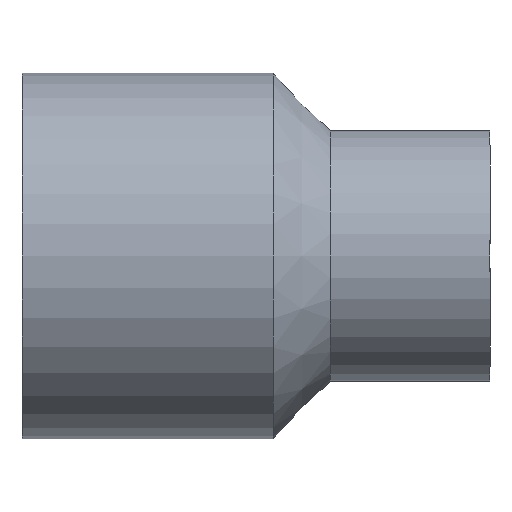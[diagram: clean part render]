
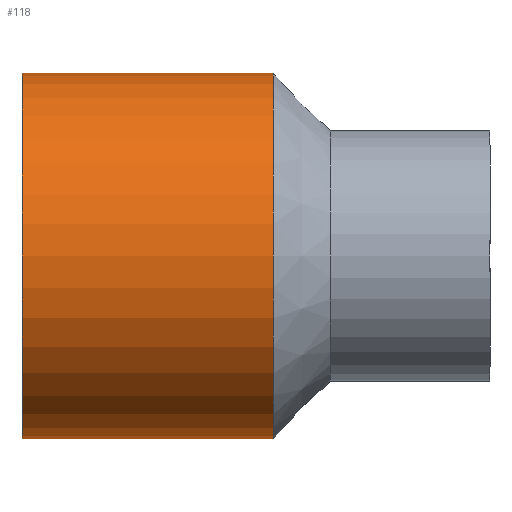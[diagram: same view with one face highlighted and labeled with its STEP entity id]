
A CAD part, front view. The second image highlights one B-rep face of the part: STEP entity #118.
In plain terms, the highlighted cylindrical face has radius 16 mm (diameter 32 mm), a full revolution.
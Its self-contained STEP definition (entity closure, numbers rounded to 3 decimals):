
#18=CYLINDRICAL_SURFACE('',#134,16.);
#25=FACE_BOUND('',#49,.T.);
#35=FACE_OUTER_BOUND('',#48,.T.);
#48=EDGE_LOOP('',(#98));
#49=EDGE_LOOP('',(#99));
#65=CIRCLE('',#133,16.);
#66=CIRCLE('',#135,16.);
#75=VERTEX_POINT('',#199);
#76=VERTEX_POINT('',#202);
#85=EDGE_CURVE('',#75,#75,#65,.T.);
#86=EDGE_CURVE('',#76,#76,#66,.T.);
#98=ORIENTED_EDGE('',*,*,#85,.T.);
#99=ORIENTED_EDGE('',*,*,#86,.F.);
#118=ADVANCED_FACE('',(#35,#25),#18,.T.);
#133=AXIS2_PLACEMENT_3D('',#200,#161,#162);
#134=AXIS2_PLACEMENT_3D('',#201,#163,#164);
#135=AXIS2_PLACEMENT_3D('',#203,#165,#166);
#161=DIRECTION('center_axis',(-1.,0.,0.));
#162=DIRECTION('ref_axis',(0.,0.,1.));
#163=DIRECTION('center_axis',(-1.,0.,0.));
#164=DIRECTION('ref_axis',(0.,-1.,0.));
#165=DIRECTION('center_axis',(-1.,0.,0.));
#166=DIRECTION('ref_axis',(0.,0.,1.));
#199=CARTESIAN_POINT('',(1.5,-16.,0.));
#200=CARTESIAN_POINT('Origin',(1.5,0.,0.));
#201=CARTESIAN_POINT('Origin',(-9.5,0.,
0.));
#202=CARTESIAN_POINT('',(-20.5,-16.,0.));
#203=CARTESIAN_POINT('Origin',(-20.5,0.,0.));
